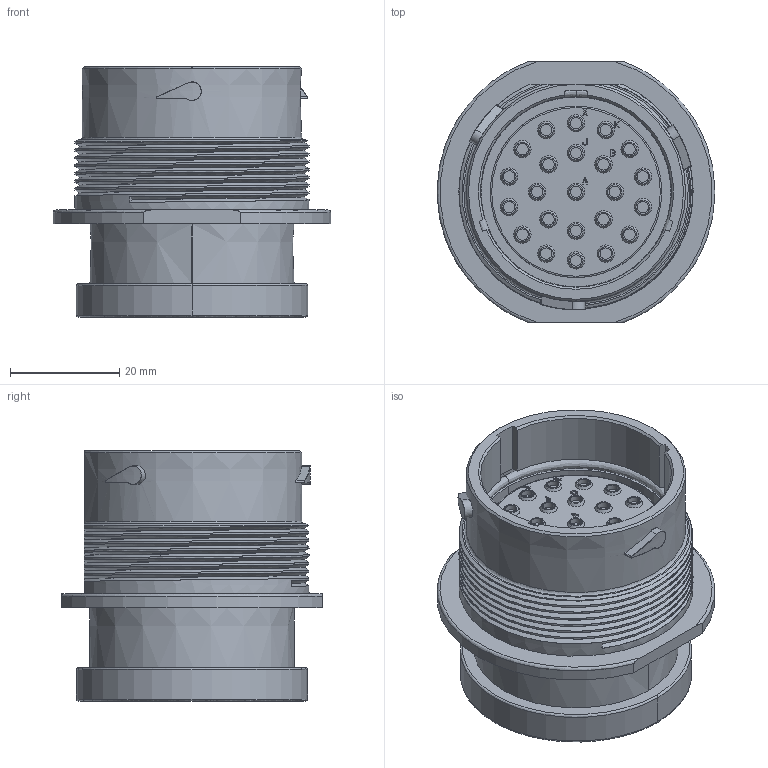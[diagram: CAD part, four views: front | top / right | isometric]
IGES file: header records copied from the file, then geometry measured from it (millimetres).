
Start section:  PTC IGES file: c-hdp24-24-23pe-l017-99-3d.igs
Global section: file name: c-hdp24-24-23pe-l017-99-3d.igs; native system: Pro/ENGINEER by Parametric Technology Corporation; preprocessor: 2011490; author: workeradm; organization: Unknown; units: millimetre
Bounding box: 50.8 x 47.62 x 45.77 mm (x, y, z)
Surface area: 15036.6 mm2 (no closed solid volume)
Topology: 0 solids, 0 shells, 560 faces, 2534 edges, 2534 vertices
Faces by surface type: revolution 294, bspline 266
